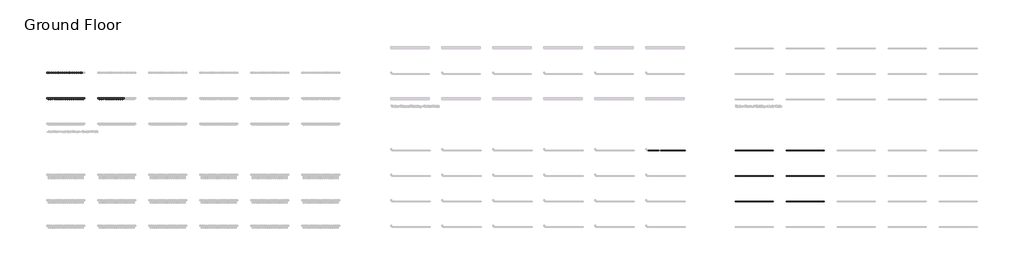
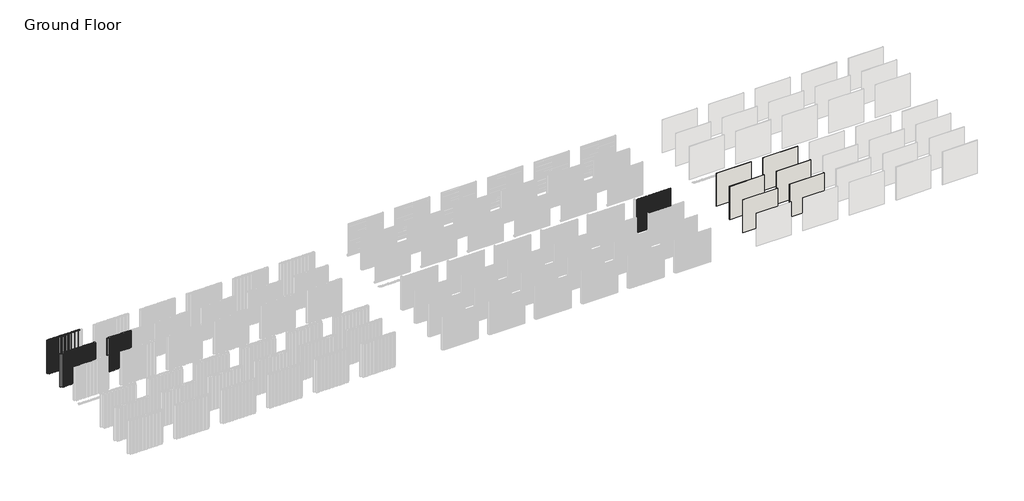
# One storey, part 45 of 350: 80 members, 53 plates, 6 walls.
"""IFC4 building model written with IfcOpenShell, lengths in millimetres."""

from ifc_helpers import new_model, si_unit, origin, origin_with_axes, place, context, project, spatial, polyline, outline, extrude, transform, mapped, element, save
from components import rectangular_mullion_25c8ac94, rectangular_mullion_d7abbbe3, rectangular_mullion_eca9a012, empty_system_panel_empty_de2abd15, empty_system_panel_empty_1239baa2, empty_system_panel_empty_e311c30d, empty_system_panel_empty_f62c9f60, empty_system_panel_empty_ba5a9e04

model = new_model("IFC4")

# Units and contexts
model_context = context("Model", 3, world=origin())
ifc_project = project(units=[si_unit("LENGTHUNIT", "METRE", prefix="MILLI")], contexts=[model_context])

# Site, building, storey
site = spatial("IfcSite", under=ifc_project)
building = spatial("IfcBuilding", under=site)
storey = spatial("IfcBuildingStorey", under=building, Name="Ground Floor", Elevation=0.0)

# Members
placement = place(None, origin())
rectangular_mullion_shape = rectangular_mullion_25c8ac94(model_context)
element("IfcMember", 1, ObjectType="Rectangular Mullion : Batten_Aluminium_Modinex_Austratus_Linear_Fin_Cedar", at=placement, inside=storey, context=model_context, shape_type="MappedRepresentation", body=[
    mapped(rectangular_mullion_shape, transform((6066.4361642, 32968.2978302, 0.0), x_axis=(1.0, 0.0, 0.0), y_axis=(0.0, -1.0, 0.0), z_axis=(0.0, 0.0, -1.0))),
])
element("IfcMember", 2, ObjectType="Rectangular Mullion : Batten_Aluminium_Modinex_Austratus_Linear_Fin_Cedar", at=placement, inside=storey, context=model_context, shape_type="MappedRepresentation", body=[
    mapped(rectangular_mullion_shape, transform((6216.4361642, 32968.2978302, 0.0), x_axis=(1.0, 0.0, 0.0), y_axis=(0.0, -1.0, 0.0), z_axis=(0.0, 0.0, -1.0))),
])
element("IfcMember", 3, ObjectType="Rectangular Mullion : Batten_Aluminium_Modinex_Austratus_Linear_Fin_Cedar", at=placement, inside=storey, context=model_context, shape_type="MappedRepresentation", body=[
    mapped(rectangular_mullion_shape, transform((6366.4361642, 32968.2978302, 0.0), x_axis=(1.0, 0.0, 0.0), y_axis=(0.0, -1.0, 0.0), z_axis=(0.0, 0.0, -1.0))),
])
element("IfcMember", 4, ObjectType="Rectangular Mullion : Batten_Aluminium_Modinex_Austratus_Linear_Fin_Cedar", at=placement, inside=storey, context=model_context, shape_type="MappedRepresentation", body=[
    mapped(rectangular_mullion_shape, transform((6516.4361642, 32968.2978302, 0.0), x_axis=(1.0, 0.0, 0.0), y_axis=(0.0, -1.0, 0.0), z_axis=(0.0, 0.0, -1.0))),
])
element("IfcMember", 5, ObjectType="Rectangular Mullion : Batten_Aluminium_Modinex_Austratus_Linear_Fin_Cedar", at=placement, inside=storey, context=model_context, shape_type="MappedRepresentation", body=[
    mapped(rectangular_mullion_shape, transform((6666.4361642, 32968.2978302, 0.0), x_axis=(1.0, 0.0, 0.0), y_axis=(0.0, -1.0, 0.0), z_axis=(0.0, 0.0, -1.0))),
])
element("IfcMember", 6, ObjectType="Rectangular Mullion : Batten_Aluminium_Modinex_Austratus_Linear_Fin_Cedar", at=placement, inside=storey, context=model_context, shape_type="MappedRepresentation", body=[
    mapped(rectangular_mullion_shape, transform((6816.4361642, 32968.2978302, 0.0), x_axis=(1.0, 0.0, 0.0), y_axis=(0.0, -1.0, 0.0), z_axis=(0.0, 0.0, -1.0))),
])
element("IfcMember", 7, ObjectType="Rectangular Mullion : Batten_Aluminium_Modinex_Austratus_Linear_Fin_Cedar", at=placement, inside=storey, context=model_context, shape_type="MappedRepresentation", body=[
    mapped(rectangular_mullion_shape, transform((6966.4361642, 32968.2978302, 0.0), x_axis=(1.0, 0.0, 0.0), y_axis=(0.0, -1.0, 0.0), z_axis=(0.0, 0.0, -1.0))),
])
element("IfcMember", 8, ObjectType="Rectangular Mullion : Batten_Aluminium_Modinex_Austratus_Linear_Fin_Cedar", at=placement, inside=storey, context=model_context, shape_type="MappedRepresentation", body=[
    mapped(rectangular_mullion_shape, transform((7116.4361642, 32968.2978302, 0.0), x_axis=(1.0, 0.0, 0.0), y_axis=(0.0, -1.0, 0.0), z_axis=(0.0, 0.0, -1.0))),
])
element("IfcMember", 9, ObjectType="Rectangular Mullion : Batten_Aluminium_Modinex_Austratus_Linear_Fin_Cedar", at=placement, inside=storey, context=model_context, shape_type="MappedRepresentation", body=[
    mapped(rectangular_mullion_shape, transform((7266.4361642, 32968.2978302, 0.0), x_axis=(1.0, 0.0, 0.0), y_axis=(0.0, -1.0, 0.0), z_axis=(0.0, 0.0, -1.0))),
])
element("IfcMember", 10, ObjectType="Rectangular Mullion : Batten_Aluminium_Modinex_Austratus_Linear_Fin_Cedar", at=placement, inside=storey, context=model_context, shape_type="MappedRepresentation", body=[
    mapped(rectangular_mullion_shape, transform((7416.4361642, 32968.2978302, 0.0), x_axis=(1.0, 0.0, 0.0), y_axis=(0.0, -1.0, 0.0), z_axis=(0.0, 0.0, -1.0))),
])
element("IfcMember", 11, ObjectType="Rectangular Mullion : Batten_Aluminium_Modinex_Austratus_Linear_Fin_Cedar", at=placement, inside=storey, context=model_context, shape_type="MappedRepresentation", body=[
    mapped(rectangular_mullion_shape, transform((7566.4361642, 32968.2978302, 0.0), x_axis=(1.0, 0.0, 0.0), y_axis=(0.0, -1.0, 0.0), z_axis=(0.0, 0.0, -1.0))),
])
element("IfcMember", 12, ObjectType="Rectangular Mullion : Batten_Aluminium_Modinex_Austratus_Linear_Fin_Cedar", at=placement, inside=storey, context=model_context, shape_type="MappedRepresentation", body=[
    mapped(rectangular_mullion_shape, transform((7716.4361642, 32968.2978302, 0.0), x_axis=(1.0, 0.0, 0.0), y_axis=(0.0, -1.0, 0.0), z_axis=(0.0, 0.0, -1.0))),
])
element("IfcMember", 13, ObjectType="Rectangular Mullion : Batten_Aluminium_Modinex_Austratus_Linear_Fin_Cedar", at=placement, inside=storey, context=model_context, shape_type="MappedRepresentation", body=[
    mapped(rectangular_mullion_shape, transform((7866.4361642, 32968.2978302, 0.0), x_axis=(1.0, 0.0, 0.0), y_axis=(0.0, -1.0, 0.0), z_axis=(0.0, 0.0, -1.0))),
])
element("IfcMember", 14, ObjectType="Rectangular Mullion : Batten_Aluminium_Modinex_Austratus_Linear_Fin_AfricanEbony", at=placement, inside=storey, context=model_context, shape_type="MappedRepresentation", body=[
    mapped(rectangular_mullion_shape, transform((2066.4361642, 32968.2978302, 0.0), x_axis=(1.0, 0.0, 0.0), y_axis=(0.0, -1.0, 0.0), z_axis=(0.0, 0.0, -1.0))),
])
element("IfcMember", 15, ObjectType="Rectangular Mullion : Batten_Aluminium_Modinex_Austratus_Linear_Fin_AfricanEbony", at=placement, inside=storey, context=model_context, shape_type="MappedRepresentation", body=[
    mapped(rectangular_mullion_shape, transform((2216.4361642, 32968.2978302, 0.0), x_axis=(1.0, 0.0, 0.0), y_axis=(0.0, -1.0, 0.0), z_axis=(0.0, 0.0, -1.0))),
])
element("IfcMember", 16, ObjectType="Rectangular Mullion : Batten_Aluminium_Modinex_Austratus_Linear_Fin_AfricanEbony", at=placement, inside=storey, context=model_context, shape_type="MappedRepresentation", body=[
    mapped(rectangular_mullion_shape, transform((2366.4361642, 32968.2978302, 0.0), x_axis=(1.0, 0.0, 0.0), y_axis=(0.0, -1.0, 0.0), z_axis=(0.0, 0.0, -1.0))),
])
element("IfcMember", 17, ObjectType="Rectangular Mullion : Batten_Aluminium_Modinex_Austratus_Linear_Fin_AfricanEbony", at=placement, inside=storey, context=model_context, shape_type="MappedRepresentation", body=[
    mapped(rectangular_mullion_shape, transform((2516.4361642, 32968.2978302, 0.0), x_axis=(1.0, 0.0, 0.0), y_axis=(0.0, -1.0, 0.0), z_axis=(0.0, 0.0, -1.0))),
])
element("IfcMember", 18, ObjectType="Rectangular Mullion : Batten_Aluminium_Modinex_Austratus_Linear_Fin_AfricanEbony", at=placement, inside=storey, context=model_context, shape_type="MappedRepresentation", body=[
    mapped(rectangular_mullion_shape, transform((2666.4361642, 32968.2978302, 0.0), x_axis=(1.0, 0.0, 0.0), y_axis=(0.0, -1.0, 0.0), z_axis=(0.0, 0.0, -1.0))),
])
element("IfcMember", 19, ObjectType="Rectangular Mullion : Batten_Aluminium_Modinex_Austratus_Linear_Fin_AfricanEbony", at=placement, inside=storey, context=model_context, shape_type="MappedRepresentation", body=[
    mapped(rectangular_mullion_shape, transform((2816.4361642, 32968.2978302, 0.0), x_axis=(1.0, 0.0, 0.0), y_axis=(0.0, -1.0, 0.0), z_axis=(0.0, 0.0, -1.0))),
])
element("IfcMember", 20, ObjectType="Rectangular Mullion : Batten_Aluminium_Modinex_Austratus_Linear_Fin_AfricanEbony", at=placement, inside=storey, context=model_context, shape_type="MappedRepresentation", body=[
    mapped(rectangular_mullion_shape, transform((2966.4361642, 32968.2978302, 0.0), x_axis=(1.0, 0.0, 0.0), y_axis=(0.0, -1.0, 0.0), z_axis=(0.0, 0.0, -1.0))),
])
element("IfcMember", 21, ObjectType="Rectangular Mullion : Batten_Aluminium_Modinex_Austratus_Linear_Fin_AfricanEbony", at=placement, inside=storey, context=model_context, shape_type="MappedRepresentation", body=[
    mapped(rectangular_mullion_shape, transform((3116.4361642, 32968.2978302, 0.0), x_axis=(1.0, 0.0, 0.0), y_axis=(0.0, -1.0, 0.0), z_axis=(0.0, 0.0, -1.0))),
])
element("IfcMember", 22, ObjectType="Rectangular Mullion : Batten_Aluminium_Modinex_Austratus_Linear_Fin_AfricanEbony", at=placement, inside=storey, context=model_context, shape_type="MappedRepresentation", body=[
    mapped(rectangular_mullion_shape, transform((3266.4361642, 32968.2978302, 0.0), x_axis=(1.0, 0.0, 0.0), y_axis=(0.0, -1.0, 0.0), z_axis=(0.0, 0.0, -1.0))),
])
element("IfcMember", 23, ObjectType="Rectangular Mullion : Batten_Aluminium_Modinex_Austratus_Linear_Fin_AfricanEbony", at=placement, inside=storey, context=model_context, shape_type="MappedRepresentation", body=[
    mapped(rectangular_mullion_shape, transform((3416.4361642, 32968.2978302, 0.0), x_axis=(1.0, 0.0, 0.0), y_axis=(0.0, -1.0, 0.0), z_axis=(0.0, 0.0, -1.0))),
])
element("IfcMember", 24, ObjectType="Rectangular Mullion : Batten_Aluminium_Modinex_Austratus_Linear_Fin_AfricanEbony", at=placement, inside=storey, context=model_context, shape_type="MappedRepresentation", body=[
    mapped(rectangular_mullion_shape, transform((3566.4361642, 32968.2978302, 0.0), x_axis=(1.0, 0.0, 0.0), y_axis=(0.0, -1.0, 0.0), z_axis=(0.0, 0.0, -1.0))),
])
element("IfcMember", 25, ObjectType="Rectangular Mullion : Batten_Aluminium_Modinex_Austratus_Linear_Fin_AfricanEbony", at=placement, inside=storey, context=model_context, shape_type="MappedRepresentation", body=[
    mapped(rectangular_mullion_shape, transform((3716.4361642, 32968.2978302, 0.0), x_axis=(1.0, 0.0, 0.0), y_axis=(0.0, -1.0, 0.0), z_axis=(0.0, 0.0, -1.0))),
])
element("IfcMember", 26, ObjectType="Rectangular Mullion : Batten_Aluminium_Modinex_Austratus_Linear_Fin_AfricanEbony", at=placement, inside=storey, context=model_context, shape_type="MappedRepresentation", body=[
    mapped(rectangular_mullion_shape, transform((3866.4361642, 32968.2978302, 0.0), x_axis=(1.0, 0.0, 0.0), y_axis=(0.0, -1.0, 0.0), z_axis=(0.0, 0.0, -1.0))),
])
element("IfcMember", 27, ObjectType="Rectangular Mullion : Batten_Aluminium_Modinex_Austratus_Linear_Fin_AfricanEbony", at=placement, inside=storey, context=model_context, shape_type="MappedRepresentation", body=[
    mapped(rectangular_mullion_shape, transform((4016.4361642, 32968.2978302, 0.0), x_axis=(1.0, 0.0, 0.0), y_axis=(0.0, -1.0, 0.0), z_axis=(0.0, 0.0, -1.0))),
])
element("IfcMember", 28, ObjectType="Rectangular Mullion : Batten_Aluminium_Modinex_Austratus_Linear_Fin_AfricanEbony", at=placement, inside=storey, context=model_context, shape_type="MappedRepresentation", body=[
    mapped(rectangular_mullion_shape, transform((4166.4361642, 32968.2978302, 0.0), x_axis=(1.0, 0.0, 0.0), y_axis=(0.0, -1.0, 0.0), z_axis=(0.0, 0.0, -1.0))),
])
element("IfcMember", 29, ObjectType="Rectangular Mullion : Batten_Aluminium_Modinex_Austratus_Linear_Fin_AfricanEbony", at=placement, inside=storey, context=model_context, shape_type="MappedRepresentation", body=[
    mapped(rectangular_mullion_shape, transform((4316.4361642, 32968.2978302, 0.0), x_axis=(1.0, 0.0, 0.0), y_axis=(0.0, -1.0, 0.0), z_axis=(0.0, 0.0, -1.0))),
])
element("IfcMember", 30, ObjectType="Rectangular Mullion : Batten_Aluminium_Modinex_Austratus_Linear_Fin_AfricanEbony", at=placement, inside=storey, context=model_context, shape_type="MappedRepresentation", body=[
    mapped(rectangular_mullion_shape, transform((4466.4361642, 32968.2978302, 0.0), x_axis=(1.0, 0.0, 0.0), y_axis=(0.0, -1.0, 0.0), z_axis=(0.0, 0.0, -1.0))),
])
element("IfcMember", 31, ObjectType="Rectangular Mullion : Batten_Aluminium_Modinex_Austratus_Linear_Fin_AfricanEbony", at=placement, inside=storey, context=model_context, shape_type="MappedRepresentation", body=[
    mapped(rectangular_mullion_shape, transform((4616.4361642, 32968.2978302, 0.0), x_axis=(1.0, 0.0, 0.0), y_axis=(0.0, -1.0, 0.0), z_axis=(0.0, 0.0, -1.0))),
])
element("IfcMember", 32, ObjectType="Rectangular Mullion : Batten_Aluminium_Modinex_Austratus_Linear_Fin_AfricanEbony", at=placement, inside=storey, context=model_context, shape_type="MappedRepresentation", body=[
    mapped(rectangular_mullion_shape, transform((4766.4361642, 32968.2978302, 0.0), x_axis=(1.0, 0.0, 0.0), y_axis=(0.0, -1.0, 0.0), z_axis=(0.0, 0.0, -1.0))),
])
rectangular_mullion_2_shape = rectangular_mullion_d7abbbe3(model_context)
element("IfcMember", 33, ObjectType="Rectangular Mullion : Batten_Aluminium_Modinex_Austratus_Linear_Flat_AfricanEbony", at=placement, inside=storey, context=model_context, shape_type="MappedRepresentation", body=[
    mapped(rectangular_mullion_2_shape, transform((2066.4361642, 34968.2978302, 0.0), x_axis=(1.0, 0.0, 0.0), y_axis=(0.0, -1.0, 0.0), z_axis=(0.0, 0.0, -1.0))),
])
element("IfcMember", 34, ObjectType="Rectangular Mullion : Batten_Aluminium_Modinex_Austratus_Linear_Flat_AfricanEbony", at=placement, inside=storey, context=model_context, shape_type="MappedRepresentation", body=[
    mapped(rectangular_mullion_2_shape, transform((2216.4361642, 34968.2978302, 0.0), x_axis=(1.0, 0.0, 0.0), y_axis=(0.0, -1.0, 0.0), z_axis=(0.0, 0.0, -1.0))),
])
element("IfcMember", 35, ObjectType="Rectangular Mullion : Batten_Aluminium_Modinex_Austratus_Linear_Flat_AfricanEbony", at=placement, inside=storey, context=model_context, shape_type="MappedRepresentation", body=[
    mapped(rectangular_mullion_2_shape, transform((2366.4361642, 34968.2978302, 0.0), x_axis=(1.0, 0.0, 0.0), y_axis=(0.0, -1.0, 0.0), z_axis=(0.0, 0.0, -1.0))),
])
element("IfcMember", 36, ObjectType="Rectangular Mullion : Batten_Aluminium_Modinex_Austratus_Linear_Flat_AfricanEbony", at=placement, inside=storey, context=model_context, shape_type="MappedRepresentation", body=[
    mapped(rectangular_mullion_2_shape, transform((2516.4361642, 34968.2978302, 0.0), x_axis=(1.0, 0.0, 0.0), y_axis=(0.0, -1.0, 0.0), z_axis=(0.0, 0.0, -1.0))),
])
element("IfcMember", 37, ObjectType="Rectangular Mullion : Batten_Aluminium_Modinex_Austratus_Linear_Flat_AfricanEbony", at=placement, inside=storey, context=model_context, shape_type="MappedRepresentation", body=[
    mapped(rectangular_mullion_2_shape, transform((2666.4361642, 34968.2978302, 0.0), x_axis=(1.0, 0.0, 0.0), y_axis=(0.0, -1.0, 0.0), z_axis=(0.0, 0.0, -1.0))),
])
element("IfcMember", 38, ObjectType="Rectangular Mullion : Batten_Aluminium_Modinex_Austratus_Linear_Flat_AfricanEbony", at=placement, inside=storey, context=model_context, shape_type="MappedRepresentation", body=[
    mapped(rectangular_mullion_2_shape, transform((2816.4361642, 34968.2978302, 0.0), x_axis=(1.0, 0.0, 0.0), y_axis=(0.0, -1.0, 0.0), z_axis=(0.0, 0.0, -1.0))),
])
element("IfcMember", 39, ObjectType="Rectangular Mullion : Batten_Aluminium_Modinex_Austratus_Linear_Flat_AfricanEbony", at=placement, inside=storey, context=model_context, shape_type="MappedRepresentation", body=[
    mapped(rectangular_mullion_2_shape, transform((2966.4361642, 34968.2978302, 0.0), x_axis=(1.0, 0.0, 0.0), y_axis=(0.0, -1.0, 0.0), z_axis=(0.0, 0.0, -1.0))),
])
element("IfcMember", 40, ObjectType="Rectangular Mullion : Batten_Aluminium_Modinex_Austratus_Linear_Flat_AfricanEbony", at=placement, inside=storey, context=model_context, shape_type="MappedRepresentation", body=[
    mapped(rectangular_mullion_2_shape, transform((3116.4361642, 34968.2978302, 0.0), x_axis=(1.0, 0.0, 0.0), y_axis=(0.0, -1.0, 0.0), z_axis=(0.0, 0.0, -1.0))),
])
element("IfcMember", 41, ObjectType="Rectangular Mullion : Batten_Aluminium_Modinex_Austratus_Linear_Flat_AfricanEbony", at=placement, inside=storey, context=model_context, shape_type="MappedRepresentation", body=[
    mapped(rectangular_mullion_2_shape, transform((3266.4361642, 34968.2978302, 0.0), x_axis=(1.0, 0.0, 0.0), y_axis=(0.0, -1.0, 0.0), z_axis=(0.0, 0.0, -1.0))),
])
element("IfcMember", 42, ObjectType="Rectangular Mullion : Batten_Aluminium_Modinex_Austratus_Linear_Flat_AfricanEbony", at=placement, inside=storey, context=model_context, shape_type="MappedRepresentation", body=[
    mapped(rectangular_mullion_2_shape, transform((3416.4361642, 34968.2978302, 0.0), x_axis=(1.0, 0.0, 0.0), y_axis=(0.0, -1.0, 0.0), z_axis=(0.0, 0.0, -1.0))),
])
element("IfcMember", 43, ObjectType="Rectangular Mullion : Batten_Aluminium_Modinex_Austratus_Linear_Flat_AfricanEbony", at=placement, inside=storey, context=model_context, shape_type="MappedRepresentation", body=[
    mapped(rectangular_mullion_2_shape, transform((3566.4361642, 34968.2978302, 0.0), x_axis=(1.0, 0.0, 0.0), y_axis=(0.0, -1.0, 0.0), z_axis=(0.0, 0.0, -1.0))),
])
element("IfcMember", 44, ObjectType="Rectangular Mullion : Batten_Aluminium_Modinex_Austratus_Linear_Flat_AfricanEbony", at=placement, inside=storey, context=model_context, shape_type="MappedRepresentation", body=[
    mapped(rectangular_mullion_2_shape, transform((3716.4361642, 34968.2978302, 0.0), x_axis=(1.0, 0.0, 0.0), y_axis=(0.0, -1.0, 0.0), z_axis=(0.0, 0.0, -1.0))),
])
element("IfcMember", 45, ObjectType="Rectangular Mullion : Batten_Aluminium_Modinex_Austratus_Linear_Flat_AfricanEbony", at=placement, inside=storey, context=model_context, shape_type="MappedRepresentation", body=[
    mapped(rectangular_mullion_2_shape, transform((3866.4361642, 34968.2978302, 0.0), x_axis=(1.0, 0.0, 0.0), y_axis=(0.0, -1.0, 0.0), z_axis=(0.0, 0.0, -1.0))),
])
rectangular_mullion_3_shape = rectangular_mullion_eca9a012(model_context)
element("IfcMember", 46, ObjectType="Rectangular Mullion : Cladding_Timber_Modinex_Castelation_81x26_WesternRedCedar", at=placement, inside=storey, context=model_context, shape_type="MappedRepresentation", body=[
    mapped(rectangular_mullion_3_shape, transform((50536.4361642, 28968.2978302, 0.0), x_axis=(1.0, 0.0, 0.0), y_axis=(0.0, -1.0, 0.0), z_axis=(0.0, 0.0, -1.0))),
])
element("IfcMember", 47, ObjectType="Rectangular Mullion : Cladding_Timber_Modinex_Castelation_81x26_WesternRedCedar", at=placement, inside=storey, context=model_context, shape_type="MappedRepresentation", body=[
    mapped(rectangular_mullion_3_shape, transform((50617.4361642, 28968.2978302, 0.0), x_axis=(1.0, 0.0, 0.0), y_axis=(0.0, -1.0, 0.0), z_axis=(0.0, 0.0, -1.0))),
])
element("IfcMember", 48, ObjectType="Rectangular Mullion : Cladding_Timber_Modinex_Castelation_81x26_WesternRedCedar", at=placement, inside=storey, context=model_context, shape_type="MappedRepresentation", body=[
    mapped(rectangular_mullion_3_shape, transform((50698.4361642, 28968.2978302, 0.0), x_axis=(1.0, 0.0, 0.0), y_axis=(0.0, -1.0, 0.0), z_axis=(0.0, 0.0, -1.0))),
])
element("IfcMember", 49, ObjectType="Rectangular Mullion : Cladding_Timber_Modinex_Castelation_81x26_WesternRedCedar", at=placement, inside=storey, context=model_context, shape_type="MappedRepresentation", body=[
    mapped(rectangular_mullion_3_shape, transform((50779.4361642, 28968.2978302, 0.0), x_axis=(1.0, 0.0, 0.0), y_axis=(0.0, -1.0, 0.0), z_axis=(0.0, 0.0, -1.0))),
])
element("IfcMember", 50, ObjectType="Rectangular Mullion : Cladding_Timber_Modinex_Castelation_81x26_WesternRedCedar", at=placement, inside=storey, context=model_context, shape_type="MappedRepresentation", body=[
    mapped(rectangular_mullion_3_shape, transform((50860.4361642, 28968.2978302, 0.0), x_axis=(1.0, 0.0, 0.0), y_axis=(0.0, -1.0, 0.0), z_axis=(0.0, 0.0, -1.0))),
])
element("IfcMember", 51, ObjectType="Rectangular Mullion : Cladding_Timber_Modinex_Castelation_81x26_WesternRedCedar", at=placement, inside=storey, context=model_context, shape_type="MappedRepresentation", body=[
    mapped(rectangular_mullion_3_shape, transform((50941.4361642, 28968.2978302, 0.0), x_axis=(1.0, 0.0, 0.0), y_axis=(0.0, -1.0, 0.0), z_axis=(0.0, 0.0, -1.0))),
])
element("IfcMember", 52, ObjectType="Rectangular Mullion : Cladding_Timber_Modinex_Castelation_81x26_WesternRedCedar", at=placement, inside=storey, context=model_context, shape_type="MappedRepresentation", body=[
    mapped(rectangular_mullion_3_shape, transform((51022.4361642, 28968.2978302, 0.0), x_axis=(1.0, 0.0, 0.0), y_axis=(0.0, -1.0, 0.0), z_axis=(0.0, 0.0, -1.0))),
])
element("IfcMember", 53, ObjectType="Rectangular Mullion : Cladding_Timber_Modinex_Castelation_81x26_WesternRedCedar", at=placement, inside=storey, context=model_context, shape_type="MappedRepresentation", body=[
    mapped(rectangular_mullion_3_shape, transform((51103.4361642, 28968.2978302, 0.0), x_axis=(1.0, 0.0, 0.0), y_axis=(0.0, -1.0, 0.0), z_axis=(0.0, 0.0, -1.0))),
])
element("IfcMember", 54, ObjectType="Rectangular Mullion : Cladding_Timber_Modinex_Castelation_81x26_WesternRedCedar", at=placement, inside=storey, context=model_context, shape_type="MappedRepresentation", body=[
    mapped(rectangular_mullion_3_shape, transform((51184.4361642, 28968.2978302, 0.0), x_axis=(1.0, 0.0, 0.0), y_axis=(0.0, -1.0, 0.0), z_axis=(0.0, 0.0, -1.0))),
])
element("IfcMember", 55, ObjectType="Rectangular Mullion : Cladding_Timber_Modinex_Castelation_81x26_WesternRedCedar", at=placement, inside=storey, context=model_context, shape_type="MappedRepresentation", body=[
    mapped(rectangular_mullion_3_shape, transform((51265.4361642, 28968.2978302, 0.0), x_axis=(1.0, 0.0, 0.0), y_axis=(0.0, -1.0, 0.0), z_axis=(0.0, 0.0, -1.0))),
])
element("IfcMember", 56, ObjectType="Rectangular Mullion : Cladding_Timber_Modinex_Castelation_81x26_WesternRedCedar", at=placement, inside=storey, context=model_context, shape_type="MappedRepresentation", body=[
    mapped(rectangular_mullion_3_shape, transform((51346.4361642, 28968.2978302, 0.0), x_axis=(1.0, 0.0, 0.0), y_axis=(0.0, -1.0, 0.0), z_axis=(0.0, 0.0, -1.0))),
])
element("IfcMember", 57, ObjectType="Rectangular Mullion : Cladding_Timber_Modinex_Castelation_81x26_WesternRedCedar", at=placement, inside=storey, context=model_context, shape_type="MappedRepresentation", body=[
    mapped(rectangular_mullion_3_shape, transform((51427.4361642, 28968.2978302, 0.0), x_axis=(1.0, 0.0, 0.0), y_axis=(0.0, -1.0, 0.0), z_axis=(0.0, 0.0, -1.0))),
])
element("IfcMember", 58, ObjectType="Rectangular Mullion : Cladding_Timber_Modinex_Castelation_81x26_WesternRedCedar", at=placement, inside=storey, context=model_context, shape_type="MappedRepresentation", body=[
    mapped(rectangular_mullion_3_shape, transform((51508.4361642, 28968.2978302, 0.0), x_axis=(1.0, 0.0, 0.0), y_axis=(0.0, -1.0, 0.0), z_axis=(0.0, 0.0, -1.0))),
])
element("IfcMember", 59, ObjectType="Rectangular Mullion : Cladding_Timber_Modinex_Castelation_81x26_WesternRedCedar", at=placement, inside=storey, context=model_context, shape_type="MappedRepresentation", body=[
    mapped(rectangular_mullion_3_shape, transform((51589.4361642, 28968.2978302, 0.0), x_axis=(1.0, 0.0, 0.0), y_axis=(0.0, -1.0, 0.0), z_axis=(0.0, 0.0, -1.0))),
])
element("IfcMember", 60, ObjectType="Rectangular Mullion : Cladding_Timber_Modinex_Castelation_81x26_WesternRedCedar", at=placement, inside=storey, context=model_context, shape_type="MappedRepresentation", body=[
    mapped(rectangular_mullion_3_shape, transform((51670.4361642, 28968.2978302, 0.0), x_axis=(1.0, 0.0, 0.0), y_axis=(0.0, -1.0, 0.0), z_axis=(0.0, 0.0, -1.0))),
])
element("IfcMember", 61, ObjectType="Rectangular Mullion : Cladding_Timber_Modinex_Castelation_81x26_WesternRedCedar", at=placement, inside=storey, context=model_context, shape_type="MappedRepresentation", body=[
    mapped(rectangular_mullion_3_shape, transform((51751.4361642, 28968.2978302, 0.0), x_axis=(1.0, 0.0, 0.0), y_axis=(0.0, -1.0, 0.0), z_axis=(0.0, 0.0, -1.0))),
])
element("IfcMember", 62, ObjectType="Rectangular Mullion : Cladding_Timber_Modinex_Castelation_81x26_WesternRedCedar", at=placement, inside=storey, context=model_context, shape_type="MappedRepresentation", body=[
    mapped(rectangular_mullion_3_shape, transform((51832.4361642, 28968.2978302, 0.0), x_axis=(1.0, 0.0, 0.0), y_axis=(0.0, -1.0, 0.0), z_axis=(0.0, 0.0, -1.0))),
])
element("IfcMember", 63, ObjectType="Rectangular Mullion : Cladding_Timber_Modinex_Castelation_81x26_WesternRedCedar", at=placement, inside=storey, context=model_context, shape_type="MappedRepresentation", body=[
    mapped(rectangular_mullion_3_shape, transform((51913.4361642, 28968.2978302, 0.0), x_axis=(1.0, 0.0, 0.0), y_axis=(0.0, -1.0, 0.0), z_axis=(0.0, 0.0, -1.0))),
])
element("IfcMember", 64, ObjectType="Rectangular Mullion : Cladding_Timber_Modinex_Castelation_81x26_WesternRedCedar", at=placement, inside=storey, context=model_context, shape_type="MappedRepresentation", body=[
    mapped(rectangular_mullion_3_shape, transform((50455.4361642, 28968.2978302, 0.0), x_axis=(1.0, 0.0, 0.0), y_axis=(0.0, -1.0, 0.0), z_axis=(0.0, 0.0, -1.0))),
])
element("IfcMember", 65, ObjectType="Rectangular Mullion : Cladding_Timber_Modinex_Castelation_81x26_WesternRedCedar", at=placement, inside=storey, context=model_context, shape_type="MappedRepresentation", body=[
    mapped(rectangular_mullion_3_shape, transform((50374.4361642, 28968.2978302, 0.0), x_axis=(1.0, 0.0, 0.0), y_axis=(0.0, -1.0, 0.0), z_axis=(0.0, 0.0, -1.0))),
])
element("IfcMember", 66, ObjectType="Rectangular Mullion : Cladding_Timber_Modinex_Castelation_81x26_WesternRedCedar", at=placement, inside=storey, context=model_context, shape_type="MappedRepresentation", body=[
    mapped(rectangular_mullion_3_shape, transform((50293.4361642, 28968.2978302, 0.0), x_axis=(1.0, 0.0, 0.0), y_axis=(0.0, -1.0, 0.0), z_axis=(0.0, 0.0, -1.0))),
])
element("IfcMember", 67, ObjectType="Rectangular Mullion : Cladding_Timber_Modinex_Castelation_81x26_WesternRedCedar", at=placement, inside=storey, context=model_context, shape_type="MappedRepresentation", body=[
    mapped(rectangular_mullion_3_shape, transform((50212.4361642, 28968.2978302, 0.0), x_axis=(1.0, 0.0, 0.0), y_axis=(0.0, -1.0, 0.0), z_axis=(0.0, 0.0, -1.0))),
])
element("IfcMember", 68, ObjectType="Rectangular Mullion : Cladding_Timber_Modinex_Castelation_81x26_WesternRedCedar", at=placement, inside=storey, context=model_context, shape_type="MappedRepresentation", body=[
    mapped(rectangular_mullion_3_shape, transform((50131.4361642, 28968.2978302, 0.0), x_axis=(1.0, 0.0, 0.0), y_axis=(0.0, -1.0, 0.0), z_axis=(0.0, 0.0, -1.0))),
])
element("IfcMember", 69, ObjectType="Rectangular Mullion : Cladding_Timber_Modinex_Castelation_81x26_WesternRedCedar", at=placement, inside=storey, context=model_context, shape_type="MappedRepresentation", body=[
    mapped(rectangular_mullion_3_shape, transform((50050.4361642, 28968.2978302, 0.0), x_axis=(1.0, 0.0, 0.0), y_axis=(0.0, -1.0, 0.0), z_axis=(0.0, 0.0, -1.0))),
])
element("IfcMember", 70, ObjectType="Rectangular Mullion : Cladding_Timber_Modinex_Castelation_81x26_WesternRedCedar", at=placement, inside=storey, context=model_context, shape_type="MappedRepresentation", body=[
    mapped(rectangular_mullion_3_shape, transform((49888.4361642, 28968.2978302, 0.0), x_axis=(1.0, 0.0, 0.0), y_axis=(0.0, -1.0, 0.0), z_axis=(0.0, 0.0, -1.0))),
])
element("IfcMember", 71, ObjectType="Rectangular Mullion : Cladding_Timber_Modinex_Castelation_81x26_WesternRedCedar", at=placement, inside=storey, context=model_context, shape_type="MappedRepresentation", body=[
    mapped(rectangular_mullion_3_shape, transform((49807.4361642, 28968.2978302, 0.0), x_axis=(1.0, 0.0, 0.0), y_axis=(0.0, -1.0, 0.0), z_axis=(0.0, 0.0, -1.0))),
])
element("IfcMember", 72, ObjectType="Rectangular Mullion : Cladding_Timber_Modinex_Castelation_81x26_WesternRedCedar", at=placement, inside=storey, context=model_context, shape_type="MappedRepresentation", body=[
    mapped(rectangular_mullion_3_shape, transform((49726.4361642, 28968.2978302, 0.0), x_axis=(1.0, 0.0, 0.0), y_axis=(0.0, -1.0, 0.0), z_axis=(0.0, 0.0, -1.0))),
])
element("IfcMember", 73, ObjectType="Rectangular Mullion : Cladding_Timber_Modinex_Castelation_81x26_WesternRedCedar", at=placement, inside=storey, context=model_context, shape_type="MappedRepresentation", body=[
    mapped(rectangular_mullion_3_shape, transform((49645.4361642, 28968.2978302, 0.0), x_axis=(1.0, 0.0, 0.0), y_axis=(0.0, -1.0, 0.0), z_axis=(0.0, 0.0, -1.0))),
])
element("IfcMember", 74, ObjectType="Rectangular Mullion : Cladding_Timber_Modinex_Castelation_81x26_WesternRedCedar", at=placement, inside=storey, context=model_context, shape_type="MappedRepresentation", body=[
    mapped(rectangular_mullion_3_shape, transform((49564.4361642, 28968.2978302, 0.0), x_axis=(1.0, 0.0, 0.0), y_axis=(0.0, -1.0, 0.0), z_axis=(0.0, 0.0, -1.0))),
])
element("IfcMember", 75, ObjectType="Rectangular Mullion : Cladding_Timber_Modinex_Castelation_81x26_WesternRedCedar", at=placement, inside=storey, context=model_context, shape_type="MappedRepresentation", body=[
    mapped(rectangular_mullion_3_shape, transform((49483.4361642, 28968.2978302, 0.0), x_axis=(1.0, 0.0, 0.0), y_axis=(0.0, -1.0, 0.0), z_axis=(0.0, 0.0, -1.0))),
])
element("IfcMember", 76, ObjectType="Rectangular Mullion : Cladding_Timber_Modinex_Castelation_81x26_WesternRedCedar", at=placement, inside=storey, context=model_context, shape_type="MappedRepresentation", body=[
    mapped(rectangular_mullion_3_shape, transform((49402.4361642, 28968.2978302, 0.0), x_axis=(1.0, 0.0, 0.0), y_axis=(0.0, -1.0, 0.0), z_axis=(0.0, 0.0, -1.0))),
])
element("IfcMember", 77, ObjectType="Rectangular Mullion : Cladding_Timber_Modinex_Castelation_81x26_WesternRedCedar", at=placement, inside=storey, context=model_context, shape_type="MappedRepresentation", body=[
    mapped(rectangular_mullion_3_shape, transform((49321.4361642, 28968.2978302, 0.0), x_axis=(1.0, 0.0, 0.0), y_axis=(0.0, -1.0, 0.0), z_axis=(0.0, 0.0, -1.0))),
])
element("IfcMember", 78, ObjectType="Rectangular Mullion : Cladding_Timber_Modinex_Castelation_81x26_WesternRedCedar", at=placement, inside=storey, context=model_context, shape_type="MappedRepresentation", body=[
    mapped(rectangular_mullion_3_shape, transform((49240.4361642, 28968.2978302, 0.0), x_axis=(1.0, 0.0, 0.0), y_axis=(0.0, -1.0, 0.0), z_axis=(0.0, 0.0, -1.0))),
])
element("IfcMember", 79, ObjectType="Rectangular Mullion : Cladding_Timber_Modinex_Castelation_81x26_WesternRedCedar", at=placement, inside=storey, context=model_context, shape_type="MappedRepresentation", body=[
    mapped(rectangular_mullion_3_shape, transform((49159.4361642, 28968.2978302, 0.0), x_axis=(1.0, 0.0, 0.0), y_axis=(0.0, -1.0, 0.0), z_axis=(0.0, 0.0, -1.0))),
])
element("IfcMember", 80, ObjectType="Rectangular Mullion : Cladding_Timber_Modinex_Castelation_81x26_WesternRedCedar", at=placement, inside=storey, context=model_context, shape_type="MappedRepresentation", body=[
    mapped(rectangular_mullion_3_shape, transform((49078.4361642, 28968.2978302, 0.0), x_axis=(1.0, 0.0, 0.0), y_axis=(0.0, -1.0, 0.0), z_axis=(0.0, 0.0, -1.0))),
])

# Plates
empty_system_panel_empty_shape = empty_system_panel_empty_de2abd15(model_context)
element("IfcPlate", 81, ObjectType="Empty System Panel : Empty", at=placement, inside=storey, context=model_context, shape_type="MappedRepresentation", body=[
    mapped(empty_system_panel_empty_shape, transform((1986.0300666, 32968.2978302, 0.0), x_axis=(1.0, 0.0, 0.0), y_axis=(0.0, 1.0, 0.0), z_axis=(0.0, 0.0, 1.0))),
])
element("IfcPlate", 82, ObjectType="Empty System Panel : Empty", at=placement, inside=storey, context=model_context, shape_type="MappedRepresentation", body=[
    mapped(empty_system_panel_empty_shape, transform((5986.0300666, 32968.2978302, 0.0), x_axis=(1.0, 0.0, 0.0), y_axis=(0.0, 1.0, 0.0), z_axis=(0.0, 0.0, 1.0))),
])
empty_system_panel_empty_2_shape = empty_system_panel_empty_1239baa2(model_context)
element("IfcPlate", 83, ObjectType="Empty System Panel : Empty", at=placement, inside=storey, context=model_context, shape_type="MappedRepresentation", body=[
    mapped(empty_system_panel_empty_2_shape, transform((2141.4361642, 32968.2978302, 0.0), x_axis=(1.0, 0.0, 0.0), y_axis=(0.0, 1.0, 0.0), z_axis=(0.0, 0.0, 1.0))),
])
element("IfcPlate", 84, ObjectType="Empty System Panel : Empty", at=placement, inside=storey, context=model_context, shape_type="MappedRepresentation", body=[
    mapped(empty_system_panel_empty_2_shape, transform((2291.4361642, 32968.2978302, 0.0), x_axis=(1.0, 0.0, 0.0), y_axis=(0.0, 1.0, 0.0), z_axis=(0.0, 0.0, 1.0))),
])
element("IfcPlate", 85, ObjectType="Empty System Panel : Empty", at=placement, inside=storey, context=model_context, shape_type="MappedRepresentation", body=[
    mapped(empty_system_panel_empty_2_shape, transform((2441.4361642, 32968.2978302, 0.0), x_axis=(1.0, 0.0, 0.0), y_axis=(0.0, 1.0, 0.0), z_axis=(0.0, 0.0, 1.0))),
])
element("IfcPlate", 86, ObjectType="Empty System Panel : Empty", at=placement, inside=storey, context=model_context, shape_type="MappedRepresentation", body=[
    mapped(empty_system_panel_empty_2_shape, transform((2591.4361642, 32968.2978302, 0.0), x_axis=(1.0, 0.0, 0.0), y_axis=(0.0, 1.0, 0.0), z_axis=(0.0, 0.0, 1.0))),
])
element("IfcPlate", 87, ObjectType="Empty System Panel : Empty", at=placement, inside=storey, context=model_context, shape_type="MappedRepresentation", body=[
    mapped(empty_system_panel_empty_2_shape, transform((2741.4361642, 32968.2978302, 0.0), x_axis=(1.0, 0.0, 0.0), y_axis=(0.0, 1.0, 0.0), z_axis=(0.0, 0.0, 1.0))),
])
element("IfcPlate", 88, ObjectType="Empty System Panel : Empty", at=placement, inside=storey, context=model_context, shape_type="MappedRepresentation", body=[
    mapped(empty_system_panel_empty_2_shape, transform((2891.4361642, 32968.2978302, 0.0), x_axis=(1.0, 0.0, 0.0), y_axis=(0.0, 1.0, 0.0), z_axis=(0.0, 0.0, 1.0))),
])
element("IfcPlate", 89, ObjectType="Empty System Panel : Empty", at=placement, inside=storey, context=model_context, shape_type="MappedRepresentation", body=[
    mapped(empty_system_panel_empty_2_shape, transform((3041.4361642, 32968.2978302, 0.0), x_axis=(1.0, 0.0, 0.0), y_axis=(0.0, 1.0, 0.0), z_axis=(0.0, 0.0, 1.0))),
])
element("IfcPlate", 90, ObjectType="Empty System Panel : Empty", at=placement, inside=storey, context=model_context, shape_type="MappedRepresentation", body=[
    mapped(empty_system_panel_empty_2_shape, transform((3191.4361642, 32968.2978302, 0.0), x_axis=(1.0, 0.0, 0.0), y_axis=(0.0, 1.0, 0.0), z_axis=(0.0, 0.0, 1.0))),
])
element("IfcPlate", 91, ObjectType="Empty System Panel : Empty", at=placement, inside=storey, context=model_context, shape_type="MappedRepresentation", body=[
    mapped(empty_system_panel_empty_2_shape, transform((3341.4361642, 32968.2978302, 0.0), x_axis=(1.0, 0.0, 0.0), y_axis=(0.0, 1.0, 0.0), z_axis=(0.0, 0.0, 1.0))),
])
element("IfcPlate", 92, ObjectType="Empty System Panel : Empty", at=placement, inside=storey, context=model_context, shape_type="MappedRepresentation", body=[
    mapped(empty_system_panel_empty_2_shape, transform((3491.4361642, 32968.2978302, 0.0), x_axis=(1.0, 0.0, 0.0), y_axis=(0.0, 1.0, 0.0), z_axis=(0.0, 0.0, 1.0))),
])
element("IfcPlate", 93, ObjectType="Empty System Panel : Empty", at=placement, inside=storey, context=model_context, shape_type="MappedRepresentation", body=[
    mapped(empty_system_panel_empty_2_shape, transform((3641.4361642, 32968.2978302, 0.0), x_axis=(1.0, 0.0, 0.0), y_axis=(0.0, 1.0, 0.0), z_axis=(0.0, 0.0, 1.0))),
])
element("IfcPlate", 94, ObjectType="Empty System Panel : Empty", at=placement, inside=storey, context=model_context, shape_type="MappedRepresentation", body=[
    mapped(empty_system_panel_empty_2_shape, transform((3791.4361642, 32968.2978302, 0.0), x_axis=(1.0, 0.0, 0.0), y_axis=(0.0, 1.0, 0.0), z_axis=(0.0, 0.0, 1.0))),
])
element("IfcPlate", 95, ObjectType="Empty System Panel : Empty", at=placement, inside=storey, context=model_context, shape_type="MappedRepresentation", body=[
    mapped(empty_system_panel_empty_2_shape, transform((3941.4361642, 32968.2978302, 0.0), x_axis=(1.0, 0.0, 0.0), y_axis=(0.0, 1.0, 0.0), z_axis=(0.0, 0.0, 1.0))),
])
element("IfcPlate", 96, ObjectType="Empty System Panel : Empty", at=placement, inside=storey, context=model_context, shape_type="MappedRepresentation", body=[
    mapped(empty_system_panel_empty_2_shape, transform((4091.4361642, 32968.2978302, 0.0), x_axis=(1.0, 0.0, 0.0), y_axis=(0.0, 1.0, 0.0), z_axis=(0.0, 0.0, 1.0))),
])
element("IfcPlate", 97, ObjectType="Empty System Panel : Empty", at=placement, inside=storey, context=model_context, shape_type="MappedRepresentation", body=[
    mapped(empty_system_panel_empty_2_shape, transform((4241.4361642, 32968.2978302, 0.0), x_axis=(1.0, 0.0, 0.0), y_axis=(0.0, 1.0, 0.0), z_axis=(0.0, 0.0, 1.0))),
])
element("IfcPlate", 98, ObjectType="Empty System Panel : Empty", at=placement, inside=storey, context=model_context, shape_type="MappedRepresentation", body=[
    mapped(empty_system_panel_empty_2_shape, transform((4391.4361642, 32968.2978302, 0.0), x_axis=(1.0, 0.0, 0.0), y_axis=(0.0, 1.0, 0.0), z_axis=(0.0, 0.0, 1.0))),
])
element("IfcPlate", 99, ObjectType="Empty System Panel : Empty", at=placement, inside=storey, context=model_context, shape_type="MappedRepresentation", body=[
    mapped(empty_system_panel_empty_2_shape, transform((4541.4361642, 32968.2978302, 0.0), x_axis=(1.0, 0.0, 0.0), y_axis=(0.0, 1.0, 0.0), z_axis=(0.0, 0.0, 1.0))),
])
element("IfcPlate", 100, ObjectType="Empty System Panel : Empty", at=placement, inside=storey, context=model_context, shape_type="MappedRepresentation", body=[
    mapped(empty_system_panel_empty_2_shape, transform((4691.4361642, 32968.2978302, 0.0), x_axis=(1.0, 0.0, 0.0), y_axis=(0.0, 1.0, 0.0), z_axis=(0.0, 0.0, 1.0))),
])
element("IfcPlate", 101, ObjectType="Empty System Panel : Empty", at=placement, inside=storey, context=model_context, shape_type="MappedRepresentation", body=[
    mapped(empty_system_panel_empty_2_shape, transform((6141.4361642, 32968.2978302, 0.0), x_axis=(1.0, 0.0, 0.0), y_axis=(0.0, 1.0, 0.0), z_axis=(0.0, 0.0, 1.0))),
])
element("IfcPlate", 102, ObjectType="Empty System Panel : Empty", at=placement, inside=storey, context=model_context, shape_type="MappedRepresentation", body=[
    mapped(empty_system_panel_empty_2_shape, transform((6291.4361642, 32968.2978302, 0.0), x_axis=(1.0, 0.0, 0.0), y_axis=(0.0, 1.0, 0.0), z_axis=(0.0, 0.0, 1.0))),
])
element("IfcPlate", 103, ObjectType="Empty System Panel : Empty", at=placement, inside=storey, context=model_context, shape_type="MappedRepresentation", body=[
    mapped(empty_system_panel_empty_2_shape, transform((6441.4361642, 32968.2978302, 0.0), x_axis=(1.0, 0.0, 0.0), y_axis=(0.0, 1.0, 0.0), z_axis=(0.0, 0.0, 1.0))),
])
element("IfcPlate", 104, ObjectType="Empty System Panel : Empty", at=placement, inside=storey, context=model_context, shape_type="MappedRepresentation", body=[
    mapped(empty_system_panel_empty_2_shape, transform((6591.4361642, 32968.2978302, 0.0), x_axis=(1.0, 0.0, 0.0), y_axis=(0.0, 1.0, 0.0), z_axis=(0.0, 0.0, 1.0))),
])
element("IfcPlate", 105, ObjectType="Empty System Panel : Empty", at=placement, inside=storey, context=model_context, shape_type="MappedRepresentation", body=[
    mapped(empty_system_panel_empty_2_shape, transform((6741.4361642, 32968.2978302, 0.0), x_axis=(1.0, 0.0, 0.0), y_axis=(0.0, 1.0, 0.0), z_axis=(0.0, 0.0, 1.0))),
])
element("IfcPlate", 106, ObjectType="Empty System Panel : Empty", at=placement, inside=storey, context=model_context, shape_type="MappedRepresentation", body=[
    mapped(empty_system_panel_empty_2_shape, transform((6891.4361642, 32968.2978302, 0.0), x_axis=(1.0, 0.0, 0.0), y_axis=(0.0, 1.0, 0.0), z_axis=(0.0, 0.0, 1.0))),
])
element("IfcPlate", 107, ObjectType="Empty System Panel : Empty", at=placement, inside=storey, context=model_context, shape_type="MappedRepresentation", body=[
    mapped(empty_system_panel_empty_2_shape, transform((7041.4361642, 32968.2978302, 0.0), x_axis=(1.0, 0.0, 0.0), y_axis=(0.0, 1.0, 0.0), z_axis=(0.0, 0.0, 1.0))),
])
element("IfcPlate", 108, ObjectType="Empty System Panel : Empty", at=placement, inside=storey, context=model_context, shape_type="MappedRepresentation", body=[
    mapped(empty_system_panel_empty_2_shape, transform((7191.4361642, 32968.2978302, 0.0), x_axis=(1.0, 0.0, 0.0), y_axis=(0.0, 1.0, 0.0), z_axis=(0.0, 0.0, 1.0))),
])
element("IfcPlate", 109, ObjectType="Empty System Panel : Empty", at=placement, inside=storey, context=model_context, shape_type="MappedRepresentation", body=[
    mapped(empty_system_panel_empty_2_shape, transform((7341.4361642, 32968.2978302, 0.0), x_axis=(1.0, 0.0, 0.0), y_axis=(0.0, 1.0, 0.0), z_axis=(0.0, 0.0, 1.0))),
])
element("IfcPlate", 110, ObjectType="Empty System Panel : Empty", at=placement, inside=storey, context=model_context, shape_type="MappedRepresentation", body=[
    mapped(empty_system_panel_empty_2_shape, transform((7491.4361642, 32968.2978302, 0.0), x_axis=(1.0, 0.0, 0.0), y_axis=(0.0, 1.0, 0.0), z_axis=(0.0, 0.0, 1.0))),
])
element("IfcPlate", 111, ObjectType="Empty System Panel : Empty", at=placement, inside=storey, context=model_context, shape_type="MappedRepresentation", body=[
    mapped(empty_system_panel_empty_2_shape, transform((7641.4361642, 32968.2978302, 0.0), x_axis=(1.0, 0.0, 0.0), y_axis=(0.0, 1.0, 0.0), z_axis=(0.0, 0.0, 1.0))),
])
element("IfcPlate", 112, ObjectType="Empty System Panel : Empty", at=placement, inside=storey, context=model_context, shape_type="MappedRepresentation", body=[
    mapped(empty_system_panel_empty_2_shape, transform((7791.4361642, 32968.2978302, 0.0), x_axis=(1.0, 0.0, 0.0), y_axis=(0.0, 1.0, 0.0), z_axis=(0.0, 0.0, 1.0))),
])
element("IfcPlate", 113, ObjectType="Empty System Panel : Empty", at=placement, inside=storey, context=model_context, shape_type="MappedRepresentation", body=[
    mapped(empty_system_panel_empty_2_shape, transform((7941.4361642, 32968.2978302, 0.0), x_axis=(1.0, 0.0, 0.0), y_axis=(0.0, 1.0, 0.0), z_axis=(0.0, 0.0, 1.0))),
])
empty_system_panel_empty_3_shape = empty_system_panel_empty_e311c30d(model_context)
element("IfcPlate", 114, ObjectType="Empty System Panel : Empty", at=placement, inside=storey, context=model_context, shape_type="MappedRepresentation", body=[
    mapped(empty_system_panel_empty_3_shape, transform((4846.8422616, 32968.2978302, 0.0), x_axis=(1.0, 0.0, 0.0), y_axis=(0.0, 1.0, 0.0), z_axis=(0.0, 0.0, 1.0))),
])
empty_system_panel_empty_4_shape = empty_system_panel_empty_f62c9f60(model_context)
element("IfcPlate", 115, ObjectType="Empty System Panel : Empty", at=placement, inside=storey, context=model_context, shape_type="MappedRepresentation", body=[
    mapped(empty_system_panel_empty_4_shape, transform((1974.2310401, 34968.2978302, 0.0), x_axis=(1.0, 0.0, 0.0), y_axis=(0.0, 1.0, 0.0), z_axis=(0.0, 0.0, 1.0))),
])
empty_system_panel_empty_5_shape = empty_system_panel_empty_ba5a9e04(model_context)
element("IfcPlate", 116, ObjectType="Empty System Panel : Empty", at=placement, inside=storey, context=model_context, shape_type="MappedRepresentation", body=[
    mapped(empty_system_panel_empty_5_shape, transform((2141.4361642, 34968.2978302, 0.0), x_axis=(1.0, 0.0, 0.0), y_axis=(0.0, 1.0, 0.0), z_axis=(0.0, 0.0, 1.0))),
])
element("IfcPlate", 117, ObjectType="Empty System Panel : Empty", at=placement, inside=storey, context=model_context, shape_type="MappedRepresentation", body=[
    mapped(empty_system_panel_empty_5_shape, transform((2291.4361642, 34968.2978302, 0.0), x_axis=(1.0, 0.0, 0.0), y_axis=(0.0, 1.0, 0.0), z_axis=(0.0, 0.0, 1.0))),
])
element("IfcPlate", 118, ObjectType="Empty System Panel : Empty", at=placement, inside=storey, context=model_context, shape_type="MappedRepresentation", body=[
    mapped(empty_system_panel_empty_5_shape, transform((2441.4361642, 34968.2978302, 0.0), x_axis=(1.0, 0.0, 0.0), y_axis=(0.0, 1.0, 0.0), z_axis=(0.0, 0.0, 1.0))),
])
element("IfcPlate", 119, ObjectType="Empty System Panel : Empty", at=placement, inside=storey, context=model_context, shape_type="MappedRepresentation", body=[
    mapped(empty_system_panel_empty_5_shape, transform((2591.4361642, 34968.2978302, 0.0), x_axis=(1.0, 0.0, 0.0), y_axis=(0.0, 1.0, 0.0), z_axis=(0.0, 0.0, 1.0))),
])
element("IfcPlate", 120, ObjectType="Empty System Panel : Empty", at=placement, inside=storey, context=model_context, shape_type="MappedRepresentation", body=[
    mapped(empty_system_panel_empty_5_shape, transform((2741.4361642, 34968.2978302, 0.0), x_axis=(1.0, 0.0, 0.0), y_axis=(0.0, 1.0, 0.0), z_axis=(0.0, 0.0, 1.0))),
])
element("IfcPlate", 121, ObjectType="Empty System Panel : Empty", at=placement, inside=storey, context=model_context, shape_type="MappedRepresentation", body=[
    mapped(empty_system_panel_empty_5_shape, transform((2891.4361642, 34968.2978302, 0.0), x_axis=(1.0, 0.0, 0.0), y_axis=(0.0, 1.0, 0.0), z_axis=(0.0, 0.0, 1.0))),
])
element("IfcPlate", 122, ObjectType="Empty System Panel : Empty", at=placement, inside=storey, context=model_context, shape_type="MappedRepresentation", body=[
    mapped(empty_system_panel_empty_5_shape, transform((3041.4361642, 34968.2978302, 0.0), x_axis=(1.0, 0.0, 0.0), y_axis=(0.0, 1.0, 0.0), z_axis=(0.0, 0.0, 1.0))),
])
element("IfcPlate", 123, ObjectType="Empty System Panel : Empty", at=placement, inside=storey, context=model_context, shape_type="MappedRepresentation", body=[
    mapped(empty_system_panel_empty_5_shape, transform((3191.4361642, 34968.2978302, 0.0), x_axis=(1.0, 0.0, 0.0), y_axis=(0.0, 1.0, 0.0), z_axis=(0.0, 0.0, 1.0))),
])
element("IfcPlate", 124, ObjectType="Empty System Panel : Empty", at=placement, inside=storey, context=model_context, shape_type="MappedRepresentation", body=[
    mapped(empty_system_panel_empty_5_shape, transform((3341.4361642, 34968.2978302, 0.0), x_axis=(1.0, 0.0, 0.0), y_axis=(0.0, 1.0, 0.0), z_axis=(0.0, 0.0, 1.0))),
])
element("IfcPlate", 125, ObjectType="Empty System Panel : Empty", at=placement, inside=storey, context=model_context, shape_type="MappedRepresentation", body=[
    mapped(empty_system_panel_empty_5_shape, transform((3491.4361642, 34968.2978302, 0.0), x_axis=(1.0, 0.0, 0.0), y_axis=(0.0, 1.0, 0.0), z_axis=(0.0, 0.0, 1.0))),
])
element("IfcPlate", 126, ObjectType="Empty System Panel : Empty", at=placement, inside=storey, context=model_context, shape_type="MappedRepresentation", body=[
    mapped(empty_system_panel_empty_5_shape, transform((3641.4361642, 34968.2978302, 0.0), x_axis=(1.0, 0.0, 0.0), y_axis=(0.0, 1.0, 0.0), z_axis=(0.0, 0.0, 1.0))),
])
element("IfcPlate", 127, ObjectType="Empty System Panel : Empty", at=placement, inside=storey, context=model_context, shape_type="MappedRepresentation", body=[
    mapped(empty_system_panel_empty_5_shape, transform((3791.4361642, 34968.2978302, 0.0), x_axis=(1.0, 0.0, 0.0), y_axis=(0.0, 1.0, 0.0), z_axis=(0.0, 0.0, 1.0))),
])
element("IfcPlate", 128, ObjectType="Empty System Panel : Empty", at=placement, inside=storey, context=model_context, shape_type="MappedRepresentation", body=[
    mapped(empty_system_panel_empty_5_shape, transform((3941.4361642, 34968.2978302, 0.0), x_axis=(1.0, 0.0, 0.0), y_axis=(0.0, 1.0, 0.0), z_axis=(0.0, 0.0, 1.0))),
])
element("IfcPlate", 129, ObjectType="Empty System Panel : Empty", at=placement, inside=storey, context=model_context, shape_type="MappedRepresentation", body=[
    mapped(empty_system_panel_empty_5_shape, transform((4091.4361642, 34968.2978302, 0.0), x_axis=(1.0, 0.0, 0.0), y_axis=(0.0, 1.0, 0.0), z_axis=(0.0, 0.0, 1.0))),
])
element("IfcPlate", 130, ObjectType="Empty System Panel : Empty", at=placement, inside=storey, context=model_context, shape_type="MappedRepresentation", body=[
    mapped(empty_system_panel_empty_5_shape, transform((4241.4361642, 34968.2978302, 0.0), x_axis=(1.0, 0.0, 0.0), y_axis=(0.0, 1.0, 0.0), z_axis=(0.0, 0.0, 1.0))),
])
element("IfcPlate", 131, ObjectType="Empty System Panel : Empty", at=placement, inside=storey, context=model_context, shape_type="MappedRepresentation", body=[
    mapped(empty_system_panel_empty_5_shape, transform((4391.4361642, 34968.2978302, 0.0), x_axis=(1.0, 0.0, 0.0), y_axis=(0.0, 1.0, 0.0), z_axis=(0.0, 0.0, 1.0))),
])
element("IfcPlate", 132, ObjectType="Empty System Panel : Empty", at=placement, inside=storey, context=model_context, shape_type="MappedRepresentation", body=[
    mapped(empty_system_panel_empty_5_shape, transform((4541.4361642, 34968.2978302, 0.0), x_axis=(1.0, 0.0, 0.0), y_axis=(0.0, 1.0, 0.0), z_axis=(0.0, 0.0, 1.0))),
])
element("IfcPlate", 133, ObjectType="Empty System Panel : Empty", at=placement, inside=storey, context=model_context, shape_type="MappedRepresentation", body=[
    mapped(empty_system_panel_empty_5_shape, transform((4691.4361642, 34968.2978302, 0.0), x_axis=(1.0, 0.0, 0.0), y_axis=(0.0, 1.0, 0.0), z_axis=(0.0, 0.0, 1.0))),
])

# Walls
element("IfcWall", 134, ObjectType="Cladding_Timber_Modinex_Castelation_81x18_AlaskanYellowCedar", at=placement, inside=storey, context=model_context, shape_type="SweptSolid", body=[
    extrude(outline(polyline([(58916.4361639, 24963.2978302), (55916.4361639, 24963.2978302), (55916.4361639, 24973.2978302), (58916.4361639, 24973.2978302), (58916.4361639, 24963.2978302)])), origin_with_axes(), (0.0, 0.0, 1.0), 3000.0),
])
element("IfcWall", 135, ObjectType="Cladding_Timber_Modinex_Castelation_81x18_Blackbutt", at=placement, inside=storey, context=model_context, shape_type="SweptSolid", body=[
    extrude(outline(polyline([(62916.4361639, 24963.2978302), (59916.4361639, 24963.2978302), (59916.4361639, 24973.2978302), (62916.4361639, 24973.2978302), (62916.4361639, 24963.2978302)])), origin_with_axes(), (0.0, 0.0, 1.0), 3000.0),
])
element("IfcWall", 136, ObjectType="Cladding_Timber_Modinex_Castelation_81x21_AlaskanYellowCedar", at=placement, inside=storey, context=model_context, shape_type="SweptSolid", body=[
    extrude(outline(polyline([(58916.4361639, 26963.2978302), (55916.4361639, 26963.2978302), (55916.4361639, 26973.2978302), (58916.4361639, 26973.2978302), (58916.4361639, 26963.2978302)])), origin_with_axes(), (0.0, 0.0, 1.0), 3000.0),
])
element("IfcWall", 137, ObjectType="Cladding_Timber_Modinex_Castelation_81x21_Blackbutt", at=placement, inside=storey, context=model_context, shape_type="SweptSolid", body=[
    extrude(outline(polyline([(62916.4361639, 26963.2978302), (59916.4361639, 26963.2978302), (59916.4361639, 26973.2978302), (62916.4361639, 26973.2978302), (62916.4361639, 26963.2978302)])), origin_with_axes(), (0.0, 0.0, 1.0), 3000.0),
])
element("IfcWall", 138, ObjectType="Cladding_Timber_Modinex_Castelation_81x26_AlaskanYellowCedar", at=placement, inside=storey, context=model_context, shape_type="SweptSolid", body=[
    extrude(outline(polyline([(58916.4361639, 28963.2978302), (55916.4361639, 28963.2978302), (55916.4361639, 28973.2978302), (58916.4361639, 28973.2978302), (58916.4361639, 28963.2978302)])), origin_with_axes(), (0.0, 0.0, 1.0), 3000.0),
])
element("IfcWall", 139, ObjectType="Cladding_Timber_Modinex_Castelation_81x26_Blackbutt", at=placement, inside=storey, context=model_context, shape_type="SweptSolid", body=[
    extrude(outline(polyline([(62916.4361639, 28963.2978302), (59916.4361639, 28963.2978302), (59916.4361639, 28973.2978302), (62916.4361639, 28973.2978302), (62916.4361639, 28963.2978302)])), origin_with_axes(), (0.0, 0.0, 1.0), 3000.0),
])

save(model, "model.ifc")
